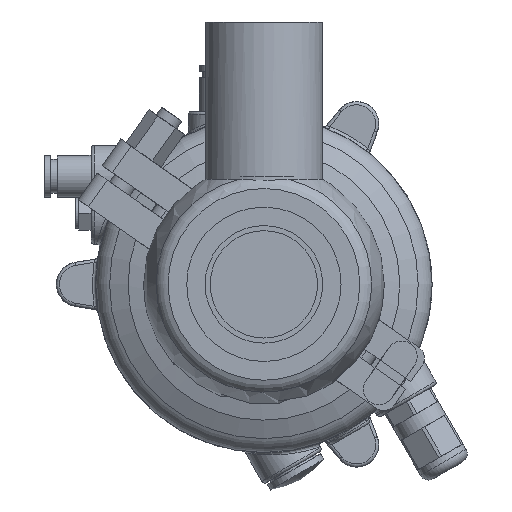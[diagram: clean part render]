
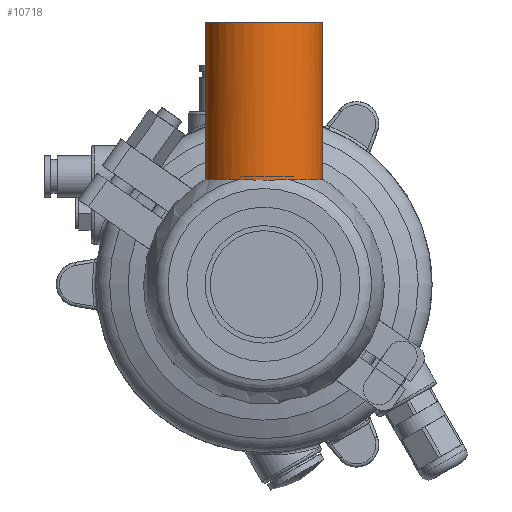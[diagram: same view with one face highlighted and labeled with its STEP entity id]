
A CAD part, front view. The second image highlights one B-rep face of the part: STEP entity #10718.
In plain terms, the highlighted cylindrical face has radius 19.05 mm (diameter 38.1 mm), a full revolution.
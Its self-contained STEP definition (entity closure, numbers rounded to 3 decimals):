
#207 = CARTESIAN_POINT ( 'NONE',  ( 33.693, -19.015, 1.339 ) ) ;
#3844 = CARTESIAN_POINT ( 'NONE',  ( 33.693, -19.015, -1.338 ) ) ;
#4458 = CARTESIAN_POINT ( 'NONE',  ( 33.936, -18.344, -5.312 ) ) ;
#8045 = CARTESIAN_POINT ( 'NONE',  ( 34.031, -17.924, -6.593 ) ) ;
#10658 = EDGE_CURVE ( 'NONE', #34895, #28687, #36600, .T. ) ;
#10718 = ADVANCED_FACE ( 'NONE', ( #11680, #53769 ), #43780, .T. ) ;
#11680 = FACE_OUTER_BOUND ( 'NONE', #44777, .T. ) ;
#11975 = CARTESIAN_POINT ( 'NONE',  ( 0., 0., 0. ) ) ;
#13218 = CARTESIAN_POINT ( 'NONE',  ( 34.031, -17.366, -7.83 ) ) ;
#13491 = CARTESIAN_POINT ( 'NONE',  ( 34.031, -17.366, 7.83 ) ) ;
#14118 = VERTEX_POINT ( 'NONE', #55594 ) ;
#15631 = DIRECTION ( 'NONE',  ( 0., 0., 1. ) ) ;
#18040 = CARTESIAN_POINT ( 'NONE',  ( 33.937, -18.342, 5.317 ) ) ;
#18803 = AXIS2_PLACEMENT_3D ( 'NONE', #41641, #35889, #26463 ) ;
#19746 = CIRCLE ( 'NONE', #18803, 19.05 ) ;
#22912 = EDGE_CURVE ( 'NONE', #14118, #14118, #19746, .T. ) ;
#26426 = EDGE_LOOP ( 'NONE', ( #31659 ) ) ;
#26463 = DIRECTION ( 'NONE',  ( 0., 0., 1. ) ) ;
#26805 = CARTESIAN_POINT ( 'NONE',  ( 34.031, -17.366, -7.83 ) ) ;
#28105 = EDGE_CURVE ( 'NONE', #28687, #34895, #42369, .T. ) ;
#28687 = VERTEX_POINT ( 'NONE', #39954 ) ;
#29262 = CARTESIAN_POINT ( 'NONE',  ( 34.031, 0., 0. ) ) ;
#31067 = CARTESIAN_POINT ( 'NONE',  ( 33.8, -18.765, 3.352 ) ) ;
#31659 = ORIENTED_EDGE ( 'NONE', *, *, #22912, .T. ) ;
#31974 = CARTESIAN_POINT ( 'NONE',  ( 33.675, -19.05, -0.671 ) ) ;
#33811 = DIRECTION ( 'NONE',  ( 1., 0., 0. ) ) ;
#34895 = VERTEX_POINT ( 'NONE', #13218 ) ;
#35889 = DIRECTION ( 'NONE',  ( -1., 0., 0. ) ) ;
#36600 = CIRCLE ( 'NONE', #51085, 19.05 ) ;
#36657 = ORIENTED_EDGE ( 'NONE', *, *, #10658, .T. ) ;
#39954 = CARTESIAN_POINT ( 'NONE',  ( 34.031, -17.366, 7.83 ) ) ;
#40485 = CARTESIAN_POINT ( 'NONE',  ( 33.755, -18.874, -2.667 ) ) ;
#41375 = CARTESIAN_POINT ( 'NONE',  ( 33.756, -18.872, 2.686 ) ) ;
#41641 = CARTESIAN_POINT ( 'NONE',  ( 85., 0., 0. ) ) ;
#42369 = B_SPLINE_CURVE_WITH_KNOTS ( 'NONE', 3,
 ( #13491, #59218, #18040, #31067, #41375, #207, #46192, #31974, #3844, #40485, #54397, #4458, #8045, #26805 ),
 .UNSPECIFIED., .F., .F.,
 ( 4, 2, 2, 2, 2, 2, 4 ),
 ( 0., 0.004, 0.006, 0.008, 0.01, 0.012, 0.016 ),
 .UNSPECIFIED. ) ;
#43780 = CYLINDRICAL_SURFACE ( 'NONE', #50128, 19.05 ) ;
#44777 = EDGE_LOOP ( 'NONE', ( #36657, #48266 ) ) ;
#46192 = CARTESIAN_POINT ( 'NONE',  ( 33.675, -19.05, 0.667 ) ) ;
#48266 = ORIENTED_EDGE ( 'NONE', *, *, #28105, .T. ) ;
#50128 = AXIS2_PLACEMENT_3D ( 'NONE', #11975, #53478, #15631 ) ;
#51085 = AXIS2_PLACEMENT_3D ( 'NONE', #29262, #33811, #51973 ) ;
#51973 = DIRECTION ( 'NONE',  ( 0., 0., 1. ) ) ;
#53478 = DIRECTION ( 'NONE',  ( -1., 0., 0. ) ) ;
#53769 = FACE_OUTER_BOUND ( 'NONE', #26426, .T. ) ;
#54397 = CARTESIAN_POINT ( 'NONE',  ( 33.799, -18.769, -3.33 ) ) ;
#55594 = CARTESIAN_POINT ( 'NONE',  ( 85., 0., 19.05 ) ) ;
#59218 = CARTESIAN_POINT ( 'NONE',  ( 34.031, -17.925, 6.591 ) ) ;
